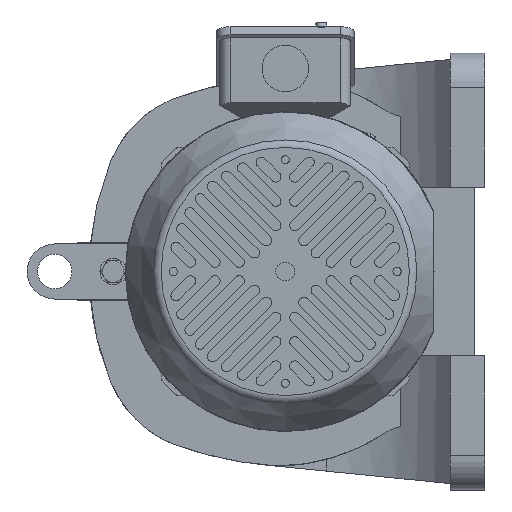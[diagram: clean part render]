
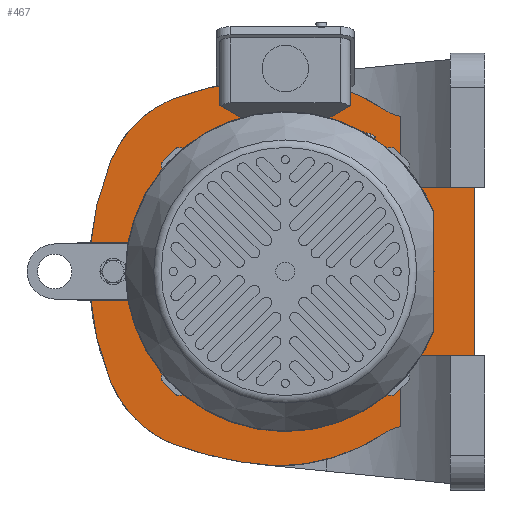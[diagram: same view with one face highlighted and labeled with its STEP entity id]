
A CAD part, left-side view. The second image highlights one B-rep face of the part: STEP entity #467.
In plain terms, the highlighted planar face has unit normal (-1, 0, 0).
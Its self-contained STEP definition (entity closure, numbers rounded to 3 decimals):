
#467 = ADVANCED_FACE( '', ( #1349 ), #1350, .F. );
#1349 = FACE_OUTER_BOUND( '', #3038, .T. );
#1350 = PLANE( '', #3039 );
#3038 = EDGE_LOOP( '', ( #5221, #5222, #5223, #5224, #5225, #5226, #5227, #5228, #5229, #5230, #5231, #5232, #5233, #5234 ) );
#3039 = AXIS2_PLACEMENT_3D( '', #5235, #5236, #5237 );
#5221 = ORIENTED_EDGE( '', *, *, #11336, .F. );
#5222 = ORIENTED_EDGE( '', *, *, #11407, .F. );
#5223 = ORIENTED_EDGE( '', *, *, #11361, .F. );
#5224 = ORIENTED_EDGE( '', *, *, #11410, .F. );
#5225 = ORIENTED_EDGE( '', *, *, #11415, .F. );
#5226 = ORIENTED_EDGE( '', *, *, #11416, .T. );
#5227 = ORIENTED_EDGE( '', *, *, #11417, .F. );
#5228 = ORIENTED_EDGE( '', *, *, #11323, .F. );
#5229 = ORIENTED_EDGE( '', *, *, #11317, .F. );
#5230 = ORIENTED_EDGE( '', *, *, #11314, .F. );
#5231 = ORIENTED_EDGE( '', *, *, #11418, .F. );
#5232 = ORIENTED_EDGE( '', *, *, #11419, .F. );
#5233 = ORIENTED_EDGE( '', *, *, #11160, .F. );
#5234 = ORIENTED_EDGE( '', *, *, #11164, .T. );
#5235 = CARTESIAN_POINT( '', ( -132., -42.77, -101.56 ) );
#5236 = DIRECTION( '', ( 1., 0., 0. ) );
#5237 = DIRECTION( '', ( 0., 0., -1. ) );
#11160 = EDGE_CURVE( '', #13263, #13265, #13266, .T. );
#11164 = EDGE_CURVE( '', #13263, #13270, #13272, .T. );
#11314 = EDGE_CURVE( '', #13528, #13530, #13531, .T. );
#11317 = EDGE_CURVE( '', #13530, #13535, #13536, .T. );
#11323 = EDGE_CURVE( '', #13535, #13546, #13547, .T. );
#11336 = EDGE_CURVE( '', #13566, #13270, #13569, .T. );
#11361 = EDGE_CURVE( '', #13609, #13611, #13612, .T. );
#11407 = EDGE_CURVE( '', #13611, #13566, #13686, .T. );
#11410 = EDGE_CURVE( '', #13690, #13609, #13692, .T. );
#11415 = EDGE_CURVE( '', #13700, #13690, #13701, .T. );
#11416 = EDGE_CURVE( '', #13700, #13702, #13703, .T. );
#11417 = EDGE_CURVE( '', #13546, #13702, #13704, .T. );
#11418 = EDGE_CURVE( '', #13705, #13528, #13706, .T. );
#11419 = EDGE_CURVE( '', #13265, #13705, #13707, .T. );
#13263 = VERTEX_POINT( '', #16786 );
#13265 = VERTEX_POINT( '', #16789 );
#13266 = CIRCLE( '', #16790, 113. );
#13270 = VERTEX_POINT( '', #16795 );
#13272 = CIRCLE( '', #16804, 22. );
#13528 = VERTEX_POINT( '', #17402 );
#13530 = VERTEX_POINT( '', #17405 );
#13531 = CIRCLE( '', #17406, 170. );
#13535 = VERTEX_POINT( '', #17436 );
#13536 = CIRCLE( '', #17437, 65. );
#13546 = VERTEX_POINT( '', #17475 );
#13547 = CIRCLE( '', #17476, 215. );
#13566 = VERTEX_POINT( '', #17501 );
#13569 = LINE( '', #17504, #17505 );
#13609 = VERTEX_POINT( '', #17668 );
#13611 = VERTEX_POINT( '', #17671 );
#13612 = LINE( '', #17672, #17673 );
#13686 = LINE( '', #17848, #17849 );
#13690 = VERTEX_POINT( '', #17854 );
#13692 = LINE( '', #17856, #17857 );
#13700 = VERTEX_POINT( '', #17869 );
#13701 = LINE( '', #17870, #17871 );
#13702 = VERTEX_POINT( '', #17872 );
#13703 = CIRCLE( '', #17873, 22. );
#13704 = CIRCLE( '', #17874, 113. );
#13705 = VERTEX_POINT( '', #17875 );
#13706 = CIRCLE( '', #17876, 65. );
#13707 = CIRCLE( '', #17877, 215. );
#16786 = CARTESIAN_POINT( '', ( -132., -92.273, -93.625 ) );
#16789 = CARTESIAN_POINT( '', ( -132., -29.022, -113. ) );
#16790 = AXIS2_PLACEMENT_3D( '', #22444, #22445, #22446 );
#16795 = CARTESIAN_POINT( '', ( -132., -101.176, -90.233 ) );
#16804 = AXIS2_PLACEMENT_3D( '', #22451, #22452, #22453 );
#17402 = CARTESIAN_POINT( '', ( -132., 67.594, -63.75 ) );
#17405 = CARTESIAN_POINT( '', ( -132., 67.594, 63.75 ) );
#17406 = AXIS2_PLACEMENT_3D( '', #22656, #22657, #22658 );
#17436 = CARTESIAN_POINT( '', ( -132., 30.486, 100.575 ) );
#17437 = AXIS2_PLACEMENT_3D( '', #22660, #22661, #22662 );
#17475 = CARTESIAN_POINT( '', ( -132., -29.022, 113. ) );
#17476 = AXIS2_PLACEMENT_3D( '', #22668, #22669, #22670 );
#17501 = CARTESIAN_POINT( '', ( -132., -101.176, -48.9 ) );
#17504 = CARTESIAN_POINT( '', ( -132., -101.176, 124.685 ) );
#17505 = VECTOR( '', #22695, 1000. );
#17668 = CARTESIAN_POINT( '', ( -132., -144., 48.9 ) );
#17671 = CARTESIAN_POINT( '', ( -132., -144., -48.9 ) );
#17672 = CARTESIAN_POINT( '', ( -132., -144., 48.9 ) );
#17673 = VECTOR( '', #22729, 1000. );
#17848 = CARTESIAN_POINT( '', ( -132., -144., -48.9 ) );
#17849 = VECTOR( '', #22796, 1000. );
#17854 = CARTESIAN_POINT( '', ( -132., -101.176, 48.9 ) );
#17856 = CARTESIAN_POINT( '', ( -132., 0., 48.9 ) );
#17857 = VECTOR( '', #22801, 1000. );
#17869 = CARTESIAN_POINT( '', ( -132., -101.176, 90.233 ) );
#17870 = CARTESIAN_POINT( '', ( -132., -101.176, 124.685 ) );
#17871 = VECTOR( '', #22806, 1000. );
#17872 = CARTESIAN_POINT( '', ( -132., -92.273, 93.625 ) );
#17873 = AXIS2_PLACEMENT_3D( '', #22807, #22808, #22809 );
#17874 = AXIS2_PLACEMENT_3D( '', #22810, #22811, #22812 );
#17875 = CARTESIAN_POINT( '', ( -132., 30.486, -100.575 ) );
#17876 = AXIS2_PLACEMENT_3D( '', #22813, #22814, #22815 );
#17877 = AXIS2_PLACEMENT_3D( '', #22816, #22817, #22818 );
#22444 = CARTESIAN_POINT( '', ( -132., -29., 0. ) );
#22445 = DIRECTION( '', ( 1., 0., 0. ) );
#22446 = DIRECTION( '', ( 0., 0., -1. ) );
#22451 = CARTESIAN_POINT( '', ( -132., -104.37, -112. ) );
#22452 = DIRECTION( '', ( 1., 0., 0. ) );
#22453 = DIRECTION( '', ( 0., 0., -1. ) );
#22656 = CARTESIAN_POINT( '', ( -132., -90., 0. ) );
#22657 = DIRECTION( '', ( 1., 0., 0. ) );
#22658 = DIRECTION( '', ( 0., 0., -1. ) );
#22660 = CARTESIAN_POINT( '', ( -132., 7.12, 39.92 ) );
#22661 = DIRECTION( '', ( 1., 0., 0. ) );
#22662 = DIRECTION( '', ( 0., 0., -1. ) );
#22668 = CARTESIAN_POINT( '', ( -132., -42.77, -101.56 ) );
#22669 = DIRECTION( '', ( 1., 0., 0. ) );
#22670 = DIRECTION( '', ( 0., 0., -1. ) );
#22695 = DIRECTION( '', ( 0., 0., -1. ) );
#22729 = DIRECTION( '', ( 0., 0., -1. ) );
#22796 = DIRECTION( '', ( 0., 1., 0. ) );
#22801 = DIRECTION( '', ( 0., -1., 0. ) );
#22806 = DIRECTION( '', ( 0., 0., -1. ) );
#22807 = CARTESIAN_POINT( '', ( -132., -104.37, 112. ) );
#22808 = DIRECTION( '', ( 1., 0., 0. ) );
#22809 = DIRECTION( '', ( 0., 0., -1. ) );
#22810 = CARTESIAN_POINT( '', ( -132., -29., 0. ) );
#22811 = DIRECTION( '', ( 1., 0., 0. ) );
#22812 = DIRECTION( '', ( 0., 0., -1. ) );
#22813 = CARTESIAN_POINT( '', ( -132., 7.12, -39.92 ) );
#22814 = DIRECTION( '', ( 1., 0., 0. ) );
#22815 = DIRECTION( '', ( 0., 0., -1. ) );
#22816 = CARTESIAN_POINT( '', ( -132., -42.77, 101.56 ) );
#22817 = DIRECTION( '', ( 1., 0., 0. ) );
#22818 = DIRECTION( '', ( 0., 0., -1. ) );
